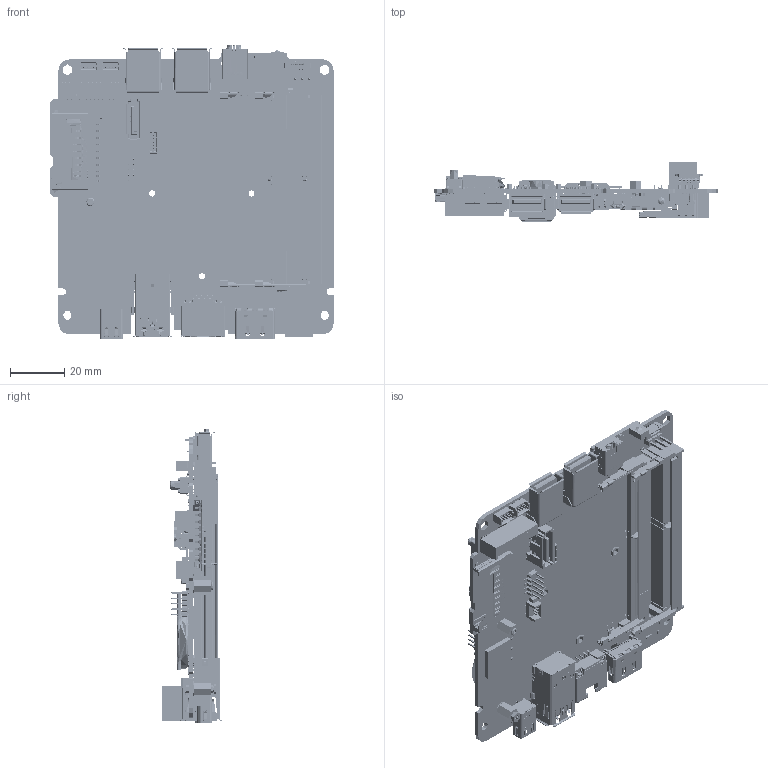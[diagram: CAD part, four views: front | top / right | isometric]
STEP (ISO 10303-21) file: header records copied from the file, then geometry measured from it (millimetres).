
FILE_DESCRIPTION (( 'STEP AP214' ), '1' );
FILE_NAME ('NUC_SY_Simplied MB.STEP', '2015-11-10T19:08:46', ( '' ), ( '' ), 'SwSTEP 2.0', 'SolidWorks 2015', '' );
FILE_SCHEMA (( 'AUTOMOTIVE_DESIGN' ));
Length unit declared in the file: millimetre
Products named in the file (97): CON_HDMI_HD12SS19EA2_HITOP-1; INTEL_M2_WIFI_1216-1; CON_MINI_DP_S69_N42011-7H_FOX-16; CON_AUDIO_3_05H-0325-1; CON_RJ45_JM3611-NS6100D3-7H_FOX-14; CON_FPC_8V05_SMT_F0500WVA_HR-1; INTEL_M2_WIFI_1216; CON_MINI_DP_S69_N42011-7H_FOX-15; CON_AUDIO_3_05H-0325; CON_RJ45_JM3611-NS6100D3-7H_FOX-13; CON_DDR4_S_H92_2254B_FOX; HEADER_1X3_P254-1; CON_MINI_DP_S69_N42011-7H_FOX-14; CON_2USB30-R_AUSB0024_LOTES-1; CON_RJ45_JM3611-NS6100D3-7H_FOX-12; CON_DDR4_S_H92_2254B_FOX-7; CPU_SKL-U_2C-GT3; CON_MINI_DP_S69_N42011-7H_FOX-13; BATTERY_NUC_3-1; CON_RJ45_JM3611-NS6100D3-7H_FOX-11; CON_DDR4_S_H92_2254B_FOX-6; CPU_SKL-U_2C-GT3-1; CON_MINI_DP_S69_N42011-7H_FOX-12; CON_RJ45_JM3611-NS6100D3-7H_FOX-10; CON_DDR4_S_H92_2254B_FOX-5; CON_MINI_DP_S69_N42011-7H_FOX-11; STD_PCIE_M2_NUC_RY_1-1; NUC_SY_Simplied MB; CON_RJ45_JM3611-NS6100D3-7H_FOX-9; CON_DDR4_S_H92_2254B_FOX-4; CON_WB_SATA-V_SAT054K06_LOTES-1; CON_MINI_DP_S69_N42011-7H_FOX-10; STD_PCIE_M2_NUC_RY-1; CON_RJ45_JM3611-NS6100D3-7H_FOX-8; CON_DDR4_S_H92_2254B_FOX-3; CON_WB-5V125_85205-05001_ACS-1; CON_MINI_DP_S69_N42011-7H_FOX-9; SPONGE_LED_UNC_3-1; CON_RJ45_JM3611-NS6100D3-7H_FOX-7; CON_DDR4_S_H92_2254B_FOX-2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
Assembly tree (96 placements, depth 3):
  NUC_SY_Simplied MB
    BATTERY_NUC_3-1
    CON_2USB30-R_AUSB0024_LOTES-1
    CON_AUDIO_3_05H-0325
      CON_AUDIO_3_05H-0325
      CON_AUDIO_3_05H-0325-1
    CON_BIOS_SOCKET_ACA-SPI-004-K01-1
    CON_DC-IN_2DC-G213-B28_SIN-1
    CON_DDR4_S_H52_2252C_FOX
      CON_DDR4_S_H52_2252C_FOX
      CON_DDR4_S_H52_2252C_FOX-1
      CON_DDR4_S_H52_2252C_FOX-2
      CON_DDR4_S_H52_2252C_FOX-3
      CON_DDR4_S_H52_2252C_FOX-4
    CON_DDR4_S_H92_2254B_FOX
      CON_DDR4_S_H92_2254B_FOX
      CON_DDR4_S_H92_2254B_FOX-1
      CON_DDR4_S_H92_2254B_FOX-2
      CON_DDR4_S_H92_2254B_FOX-3
      CON_DDR4_S_H92_2254B_FOX-4
      CON_DDR4_S_H92_2254B_FOX-5
      CON_DDR4_S_H92_2254B_FOX-6
      CON_DDR4_S_H92_2254B_FOX-7
    CON_FPC_8V05_SMT_F0500WVA_HR-1
    CON_HDMI_HD12SS19EA2_HITOP-1
    CON_HEADER_2X5N10_P2_PINREX-1
    CON_HEADER_2X5N10_P2_PINREX_1-1
    CON_MINI_DP_S69_N42011-7H_FOX
      CON_MINI_DP_S69_N42011-7H_FOX
      CON_MINI_DP_S69_N42011-7H_FOX-1
      CON_MINI_DP_S69_N42011-7H_FOX-2
      CON_MINI_DP_S69_N42011-7H_FOX-3
      CON_MINI_DP_S69_N42011-7H_FOX-4
      CON_MINI_DP_S69_N42011-7H_FOX-5
      CON_MINI_DP_S69_N42011-7H_FOX-6
      CON_MINI_DP_S69_N42011-7H_FOX-7
      CON_MINI_DP_S69_N42011-7H_FOX-8
      CON_MINI_DP_S69_N42011-7H_FOX-9
      CON_MINI_DP_S69_N42011-7H_FOX-10
      CON_MINI_DP_S69_N42011-7H_FOX-11
      CON_MINI_DP_S69_N42011-7H_FOX-12
      CON_MINI_DP_S69_N42011-7H_FOX-13
      CON_MINI_DP_S69_N42011-7H_FOX-14
      CON_MINI_DP_S69_N42011-7H_FOX-15
      CON_MINI_DP_S69_N42011-7H_FOX-16
    CON_PCIE_M2_H85_B_LOTES-1
    CON_PH_4V125_1ROW_DIP-1
    CON_PH_4V125_1ROW_DIP_1-1
    CON_RJ45_JM3611-NS6100D3-7H_FOX
      CON_RJ45_JM3611-NS6100D3-7H_FOX
      CON_RJ45_JM3611-NS6100D3-7H_FOX-1
      CON_RJ45_JM3611-NS6100D3-7H_FOX-2
      CON_RJ45_JM3611-NS6100D3-7H_FOX-3
      CON_RJ45_JM3611-NS6100D3-7H_FOX-4
      CON_RJ45_JM3611-NS6100D3-7H_FOX-5
      CON_RJ45_JM3611-NS6100D3-7H_FOX-6
      CON_RJ45_JM3611-NS6100D3-7H_FOX-7
      CON_RJ45_JM3611-NS6100D3-7H_FOX-8
      CON_RJ45_JM3611-NS6100D3-7H_FOX-9
      CON_RJ45_JM3611-NS6100D3-7H_FOX-10
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Bounding box: 104.6 x 22.2 x 108.6 mm (x, y, z)
Topology: 87 solids, 160 shells, 17754 faces, 51292 edges, 33533 vertices
Faces by surface type: plane 12398, cylinder 4756, bspline 499, cone 101
Full cylindrical faces by diameter (mm): 0.2 x4, 0.8 x2
Entity records: 644610 total; most frequent: CARTESIAN_POINT 157503, ORIENTED_EDGE 101973, DIRECTION 81961, EDGE_CURVE 51295, VECTOR 35503, LINE 35503, VERTEX_POINT 33538, AXIS2_PLACEMENT_3D 23229
